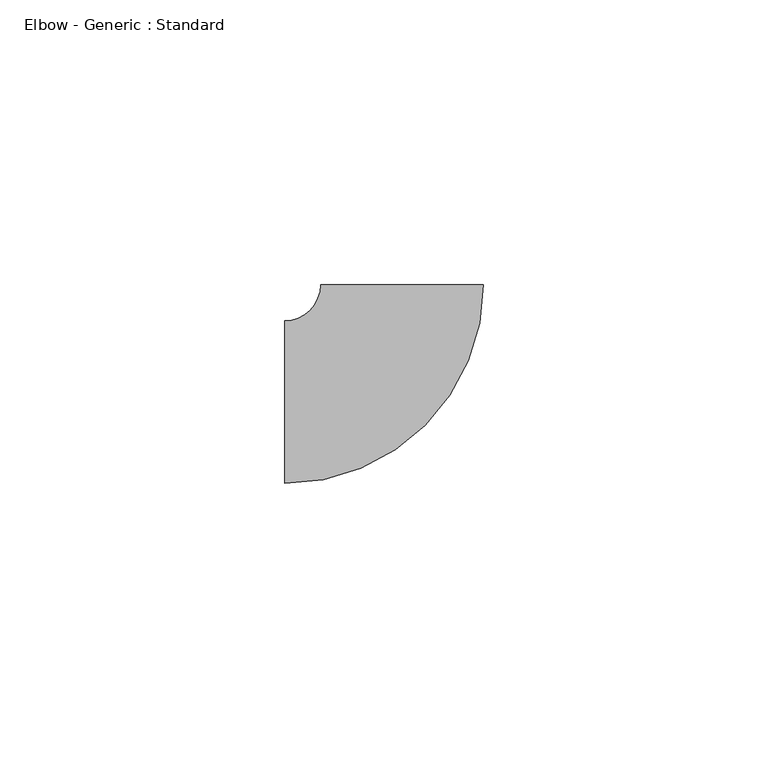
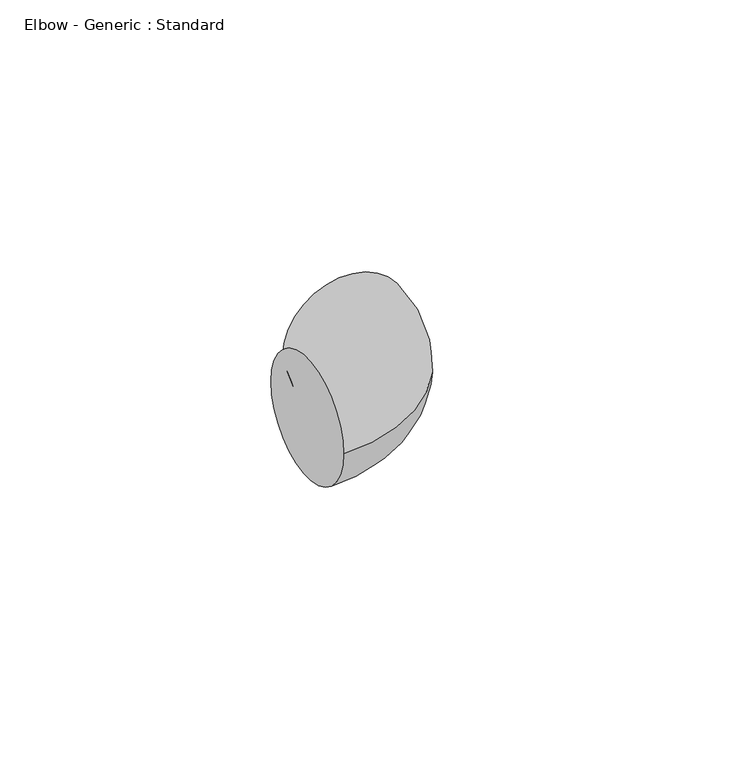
"""IFC4 building model written with IfcOpenShell, lengths in millimetres: pipe fitting geometry, Elbow - Generic : Standard."""

from ifc_helpers import new_model, si_unit, point, frame, origin, place, context, project, spatial, circle_curve, ellipse_curve, trimmed, source, transform, mapped, element, save
from ifc_brep_helpers import plane_surface, revolved_surface, advanced_brep


def elbow_generic_standard_e45579ec(model_context):
    return source(origin(), model_context, "Body", "AdvancedBrep", [
        advanced_brep(
        [(-20.6433195, -14.2875, 0.0), (-20.6433195, 14.2875, 0.0), (14.2816791, 20.647347, 0.0), (-14.2933198, 20.6392904, 0.0)],
        [
            (0, 1, circle_curve(frame((-20.6433195, 0.0, 0.0), z_axis=(-1.0, 0.0, 0.0), x_axis=(0.0, 1.0, 0.0)), 14.2875)),
            (1, 0, circle_curve(frame((-20.6433195, 0.0, 0.0), z_axis=(-1.0, 0.0, 0.0), x_axis=(0.0, 1.0, 0.0)), 14.2875)),
            (2, 3, circle_curve(frame((-0.0058203, 20.6433187, 0.0), z_axis=(-0.00028194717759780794, 0.9999999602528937, 0.0), x_axis=(-0.9999999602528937, -0.00028194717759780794, 0.0)), 14.2875)),
            (3, 2, circle_curve(frame((-0.0058203, 20.6433187, 0.0), z_axis=(-0.00028194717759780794, 0.9999999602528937, 0.0), x_axis=(-0.9999999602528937, -0.00028194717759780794, 0.0)), 14.2875)),
            (3, 1, circle_curve(frame((-20.6433195, 20.6375, 0.0), z_axis=(0.0, 0.0, -1.0), x_axis=(0.0, -1.0, 0.0)), 6.35)),
            (0, 2, circle_curve(frame((-20.6433195, 20.6375, 0.0), z_axis=(0.0, 0.0, 1.0), x_axis=(0.0, -1.0, 0.0)), 34.925)),
        ],
        [
            plane_surface(frame((-20.6433195, 0.0, 0.0), z_axis=(-1.0, 0.0, 0.0), x_axis=(0.0, 0.0, 1.0))),
            plane_surface(frame((-0.0058203, 20.6433187, 0.0), z_axis=(-0.00028194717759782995, 0.9999999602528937, 0.0), x_axis=(0.0, 0.0, 1.0))),
            revolved_surface(trimmed(ellipse_curve(frame((-20.6433195, 0.0, 0.0), z_axis=(-1.0, 0.0, 0.0), x_axis=(0.0, 1.0, 0.0)), 14.2875, 14.2875), [point((-20.6433195, -14.2875, 0.0))], [point((-20.6433195, 14.2875, 0.0))], True, "CARTESIAN"), (-20.6433195, 20.6375, 0.0), (0.0, 0.0, 1.0)),
            revolved_surface(trimmed(ellipse_curve(frame((-20.6433195, 0.0, 0.0), z_axis=(-1.0, 0.0, 0.0), x_axis=(0.0, 1.0, 0.0)), 14.2875, 14.2875), [point((-20.6433195, 14.2875, 0.0))], [point((-20.6433195, -14.2875, 0.0))], True, "CARTESIAN"), (-20.6433195, 20.6375, 0.0), (0.0, 0.0, 1.0)),
        ],
        [
            (0, [[1, 2]]),
            (1, [[3, 4]]),
            (2, [[5, -1, 6, -4]]),
            (3, [[-6, -2, -5, -3]]),
        ],
    ),
    ])


if __name__ == "__main__":
    model = new_model("IFC4")
    model_context = context("Model", 3, world=origin())
    ifc_project = project(units=[si_unit("LENGTHUNIT", "METRE", prefix="MILLI")], contexts=[model_context])
    site = spatial("IfcSite", under=ifc_project)
    building = spatial("IfcBuilding", under=site)
    placement = place(None, origin())
    elbow_generic_standard_shape = elbow_generic_standard_e45579ec(model_context)
    element("IfcPipeFitting", 1, ObjectType="Elbow - Generic : Standard", at=placement, inside=building, context=model_context, shape_type="MappedRepresentation", body=[
        mapped(elbow_generic_standard_shape, transform((0.0, 0.0, 0.0), x_axis=(1.0, 0.0, 0.0), y_axis=(0.0, 1.0, 0.0), z_axis=(0.0, 0.0, 1.0))),
    ])
    save(model, "model.ifc")
